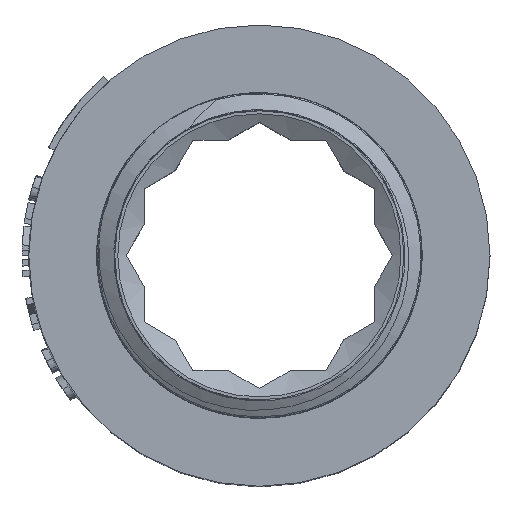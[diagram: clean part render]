
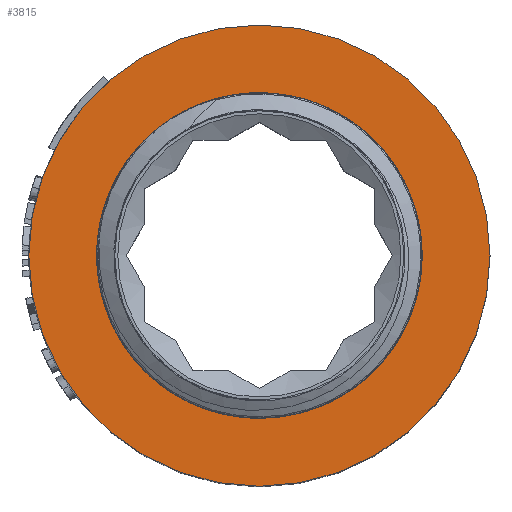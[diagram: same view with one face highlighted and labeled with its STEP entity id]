
A CAD part, top view. The second image highlights one B-rep face of the part: STEP entity #3815.
In plain terms, the highlighted planar face has unit normal (0, 0, 1).
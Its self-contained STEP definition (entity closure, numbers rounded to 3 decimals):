
#83=FACE_BOUND('',#885,.T.);
#483=PLANE('',#4060);
#657=FACE_OUTER_BOUND('',#884,.T.);
#884=EDGE_LOOP('',(#3321,#3322));
#885=EDGE_LOOP('',(#3323,#3324));
#1368=CIRCLE('',#3882,10.72);
#1371=CIRCLE('',#3885,10.72);
#1392=CIRCLE('',#3925,17.1);
#1393=CIRCLE('',#3926,17.1);
#1468=VERTEX_POINT('',#4789);
#1469=VERTEX_POINT('',#4790);
#1516=VERTEX_POINT('',#5037);
#1517=VERTEX_POINT('',#5038);
#1860=EDGE_CURVE('',#1468,#1469,#1368,.T.);
#1864=EDGE_CURVE('',#1469,#1468,#1371,.T.);
#1931=EDGE_CURVE('',#1516,#1517,#1392,.T.);
#1932=EDGE_CURVE('',#1517,#1516,#1393,.T.);
#3321=ORIENTED_EDGE('',*,*,#1931,.T.);
#3322=ORIENTED_EDGE('',*,*,#1932,.T.);
#3323=ORIENTED_EDGE('',*,*,#1860,.F.);
#3324=ORIENTED_EDGE('',*,*,#1864,.F.);
#3815=ADVANCED_FACE('',(#657,#83),#483,.T.);
#3882=AXIS2_PLACEMENT_3D('',#4791,#4114,#4115);
#3885=AXIS2_PLACEMENT_3D('',#4797,#4121,#4122);
#3925=AXIS2_PLACEMENT_3D('',#5039,#4237,#4238);
#3926=AXIS2_PLACEMENT_3D('',#5040,#4239,#4240);
#4060=AXIS2_PLACEMENT_3D('',#7924,#4665,#4666);
#4114=DIRECTION('center_axis',(0.,0.,1.));
#4115=DIRECTION('ref_axis',(1.,0.,0.));
#4121=DIRECTION('center_axis',(0.,0.,1.));
#4122=DIRECTION('ref_axis',(1.,0.,0.));
#4237=DIRECTION('center_axis',(0.,0.,1.));
#4238=DIRECTION('ref_axis',(1.,0.,0.));
#4239=DIRECTION('center_axis',(0.,0.,1.));
#4240=DIRECTION('ref_axis',(1.,0.,0.));
#4665=DIRECTION('center_axis',(0.,0.,1.));
#4666=DIRECTION('ref_axis',(1.,0.,0.));
#4789=CARTESIAN_POINT('',(0.,10.72,-12.));
#4790=CARTESIAN_POINT('',(0.,-10.72,-12.));
#4791=CARTESIAN_POINT('Origin',(0.,0.,-12.));
#4797=CARTESIAN_POINT('Origin',(0.,0.,-12.));
#5037=CARTESIAN_POINT('',(0.,-17.1,-12.));
#5038=CARTESIAN_POINT('',(0.,17.1,-12.));
#5039=CARTESIAN_POINT('Origin',(0.,0.,-12.));
#5040=CARTESIAN_POINT('Origin',(0.,0.,-12.));
#7924=CARTESIAN_POINT('Origin',(0.,-12.065,-12.));
